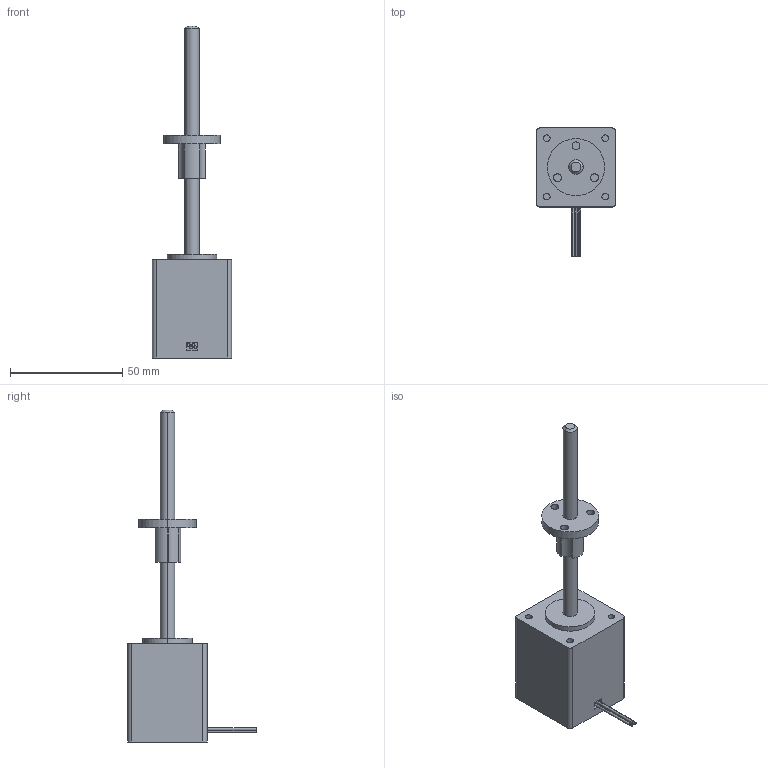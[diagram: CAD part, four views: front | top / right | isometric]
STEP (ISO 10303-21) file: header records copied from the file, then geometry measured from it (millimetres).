
FILE_DESCRIPTION (( 'STEP AP214' ), '1' );
FILE_NAME ('AMETEK-E35M4B-2.33-4-12.STEP', '2022-02-28T12:11:04', ( '' ), ( '' ), 'SwSTEP 2.0', 'SolidWorks 2021', '' );
FILE_SCHEMA (( 'AUTOMOTIVE_DESIGN' ));
Length unit declared in the file: inch
Products named in the file (3): AMETEK-E35M4B-2.33-4-12; 35000 Double stack External Linear; 35000 External Linear Nut
Assembly tree (2 placements, depth 2):
  AMETEK-E35M4B-2.33-4-12
    35000 Double stack External Linear
    35000 External Linear Nut
Bounding box: 35.2 x 57.02 x 147.75 mm (x, y, z)
Volume: 59515.5 mm3; surface area: 14467.5 mm2
Topology: 3 solids, 3 shells, 74 faces, 166 edges, 110 vertices
Faces by surface type: cylinder 46, plane 26, cone 2
Entity records: 2822 total; most frequent: DIRECTION 418, CARTESIAN_POINT 355, ORIENTED_EDGE 332, AXIS2_PLACEMENT_3D 173, EDGE_CURVE 166, VERTEX_POINT 110, EDGE_LOOP 96, CIRCLE 94
